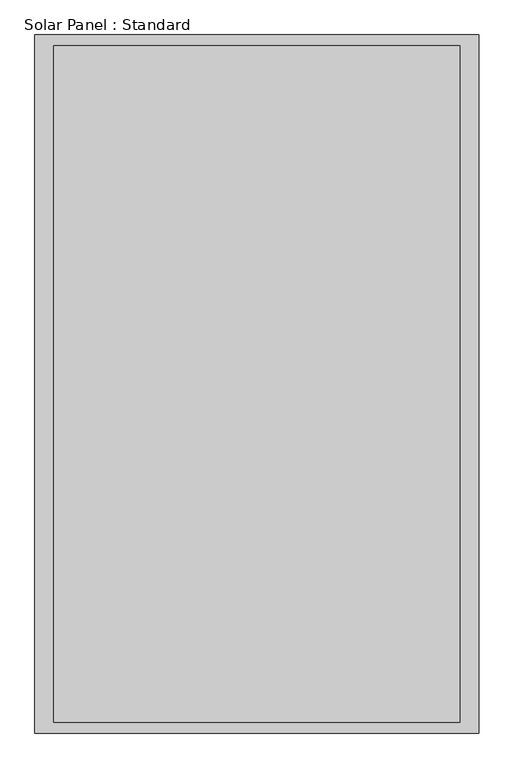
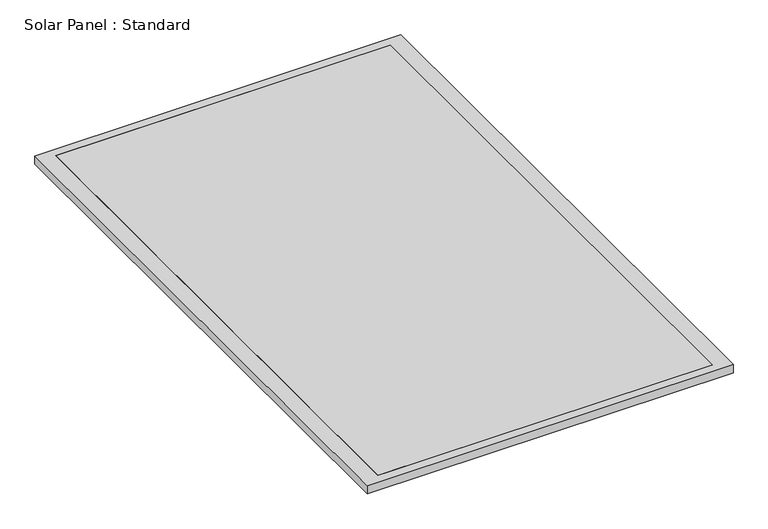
"""IFC4 building model written with IfcOpenShell, lengths in millimetres: proxy geometry, Solar Panel : Standard."""

from ifc_helpers import new_model, si_unit, frame, origin, place, context, project, spatial, polyline, outline, extrude, source, transform, mapped, element, save


def solar_panel_standard_bde9ee84(model_context):
    return source(origin(), model_context, "Body", "SweptSolid", [
        extrude(outline(polyline([(487.5609375, 812.6015625), (487.5609375, -812.6015625), (-487.5609375, -812.6015625), (-487.5609375, 812.6015625), (487.5609375, 812.6015625)])), frame((0.0, 0.0, 6.35), z_axis=(0.0, 0.0, 1.0), x_axis=(1.0, 0.0, 0.0)), (0.0, 0.0, 1.0), 25.4),
        extrude(outline(polyline([(533.4, 838.2), (533.4, -838.2), (-533.4, -838.2), (-533.4, 838.2), (533.4, 838.2)]), holes=[polyline([(487.5609375, 812.6015625), (-487.5609375, 812.6015625), (-487.5609375, -812.6015625), (487.5609375, -812.6015625), (487.5609375, 812.6015625)])]), frame((0.0, 0.0, 6.35), z_axis=(0.0, 0.0, 1.0), x_axis=(1.0, 0.0, 0.0)), (0.0, 0.0, 1.0), 25.4),
    ])


if __name__ == "__main__":
    model = new_model("IFC4")
    model_context = context("Model", 3, world=origin())
    ifc_project = project(units=[si_unit("LENGTHUNIT", "METRE", prefix="MILLI")], contexts=[model_context])
    site = spatial("IfcSite", under=ifc_project)
    building = spatial("IfcBuilding", under=site)
    placement = place(None, origin())
    solar_panel_standard_shape = solar_panel_standard_bde9ee84(model_context)
    element("IfcBuildingElementProxy", 1, Name="Solar Panel : Standard", ObjectType="Solar Panel : Standard", at=placement, inside=building, context=model_context, shape_type="MappedRepresentation", body=[
        mapped(solar_panel_standard_shape, transform((0.0, 0.0, 0.0), x_axis=(1.0, 0.0, 0.0), y_axis=(0.0, 1.0, 0.0), z_axis=(0.0, 0.0, 1.0))),
    ])
    save(model, "model.ifc")
